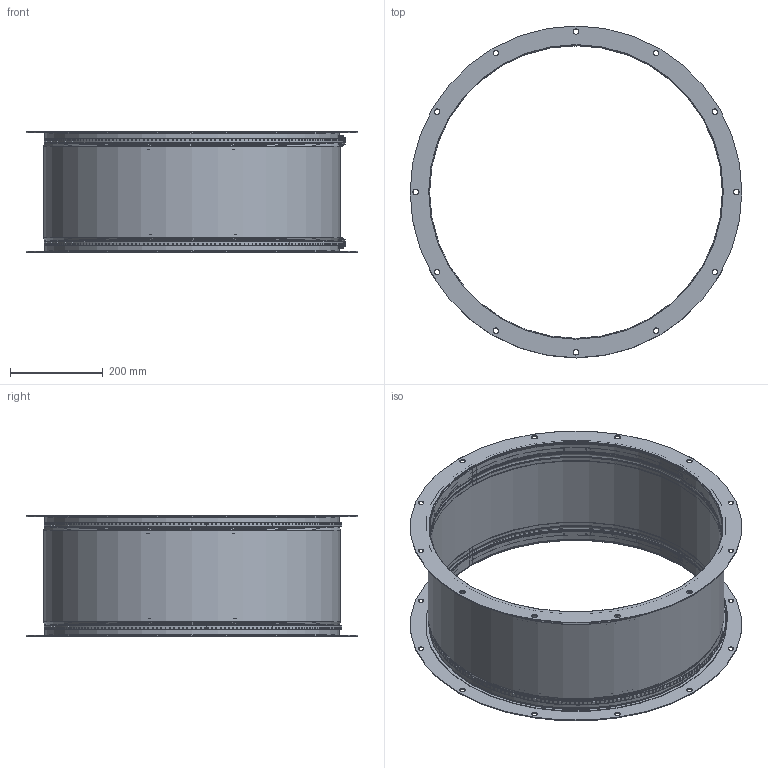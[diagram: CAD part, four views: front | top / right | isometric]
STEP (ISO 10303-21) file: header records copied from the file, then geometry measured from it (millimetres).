
FILE_DESCRIPTION(/* description */ ('Antivibration connector P-DRG ZPD-905 SE'),/* implementation_level */ '2;1');
FILE_NAME(/* name */ 'Y:\VaultRobocze\Designs\2\0\02\900 4610\2 002 900 4610.stp',/* time_stamp */ '2018-03-30T10:41:09+02:00',/* author */ ('TomaszCie'),/* organization */ (''),/* preprocessor_version */ 'ST-DEVELOPER v16.13',/* originating_system */ 'Autodesk Inventor 2018',/* authorisation */ '');
FILE_SCHEMA (('AUTOMOTIVE_DESIGN { 1 0 10303 214 3 1 1 }'));
Length unit declared in the file: millimetre
Products named in the file (10): 2 002 900 4610; 2 002 901 4610; 2 002 901 3711; 2 002 901 3712 1; Compensator ZPD-905 400C; Duct clisp SBF; k0043_1430701_03; k0043_1430701_02; k0043_1430701_01; Tape SBF
Assembly tree (12 placements, depth 3):
  2 002 900 4610
    2 002 901 4610  x2
      2 002 901 3711
      2 002 901 3712 1
    Compensator ZPD-905 400C
    Duct clisp SBF  x2
      k0043_1430701_03
      k0043_1430701_02
      k0043_1430701_01
    Tape SBF  x2
Bounding box: 714 x 714 x 260 mm (x, y, z)
Volume: 828400.2 mm3; surface area: 1921108.8 mm2
Topology: 13 solids, 13 shells, 4340 faces, 11536 edges, 7666 vertices
Faces by surface type: plane 2354, cylinder 1938, bspline 28, torus 16, cone 4
Full cylindrical faces by diameter (mm): 12 x24, 630 x4, 632 x4, 633 x2, 633.5 x2, 634 x2, 638 x1, 639 x1, 648 x2, 714 x2
Entity records: 74079 total; most frequent: CARTESIAN_POINT 19874, ORIENTED_EDGE 11482, DIRECTION 10759, EDGE_CURVE 5741, VERTEX_POINT 3827, AXIS2_PLACEMENT_3D 3724, LINE 3311, VECTOR 3311
